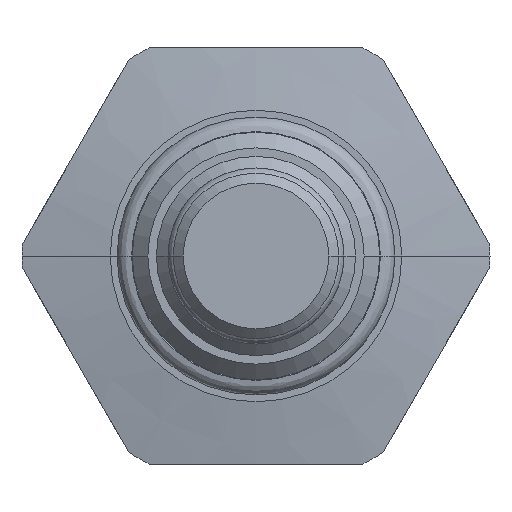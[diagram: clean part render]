
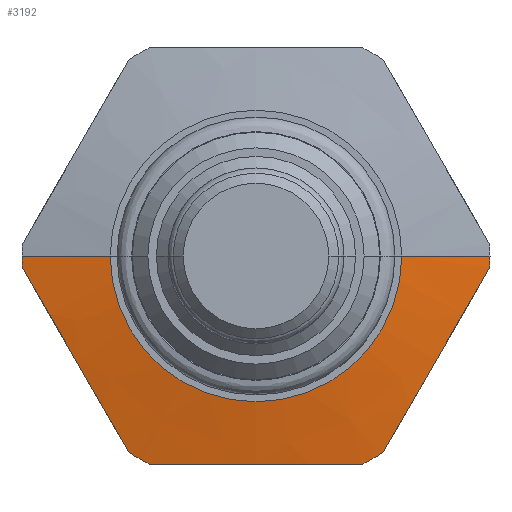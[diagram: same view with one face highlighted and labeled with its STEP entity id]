
A CAD part, front view. The second image highlights one B-rep face of the part: STEP entity #3192.
In plain terms, the highlighted conical face has half-angle 80 degrees and reference radius 14.478 mm.
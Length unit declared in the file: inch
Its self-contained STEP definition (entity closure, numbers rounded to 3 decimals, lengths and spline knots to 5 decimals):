
#456=CARTESIAN_POINT('',(0.32075,0.07663,-0.625));
#457=CARTESIAN_POINT('',(0.30718,0.07554,-0.625));
#458=CARTESIAN_POINT('',(0.28016,0.07347,-0.625));
#459=CARTESIAN_POINT('',(0.2401,0.07075,-0.625));
#460=CARTESIAN_POINT('',(0.20023,0.06842,-0.625));
#461=CARTESIAN_POINT('',(0.16038,0.06647,-0.625));
#462=CARTESIAN_POINT('',(0.12046,0.06492,-0.625));
#463=CARTESIAN_POINT('',(0.08041,0.0638,-0.625));
#464=CARTESIAN_POINT('',(0.04024,0.06312,-0.625));
#465=CARTESIAN_POINT('',(0.,0.06289,-0.625));
#466=CARTESIAN_POINT('',(-0.04024,0.06312,-0.625));
#467=CARTESIAN_POINT('',(-0.08041,0.0638,-0.625));
#468=CARTESIAN_POINT('',(-0.12046,0.06492,-0.625));
#469=CARTESIAN_POINT('',(-0.16038,0.06647,-0.625));
#470=CARTESIAN_POINT('',(-0.20023,0.06842,-0.625));
#471=CARTESIAN_POINT('',(-0.2401,0.07075,-0.625));
#472=CARTESIAN_POINT('',(-0.28016,0.07347,-0.625));
#473=CARTESIAN_POINT('',(-0.30718,0.07554,-0.625));
#474=CARTESIAN_POINT('',(-0.32075,0.07663,-0.625));
#494=CARTESIAN_POINT('',(0.,0.07663,0.));
#495=DIRECTION('',(0.,1.,0.));
#496=DIRECTION('',(-0.457,0.,-0.89));
#497=AXIS2_PLACEMENT_3D('',#494,#495,#496);
#499=CARTESIAN_POINT('',(0.,0.07663,0.));
#500=DIRECTION('',(0.,1.,0.));
#501=DIRECTION('',(-0.999,0.,-0.049));
#502=AXIS2_PLACEMENT_3D('',#499,#500,#501);
#504=CARTESIAN_POINT('',(0.,0.07663,0.));
#505=DIRECTION('',(0.,1.,0.));
#506=DIRECTION('',(1.,0.,0.));
#507=AXIS2_PLACEMENT_3D('',#504,#505,#506);
#509=CARTESIAN_POINT('',(0.,0.07663,0.));
#510=DIRECTION('',(0.,1.,0.));
#511=DIRECTION('',(0.542,0.,-0.84));
#512=AXIS2_PLACEMENT_3D('',#509,#510,#511);
#536=CARTESIAN_POINT('',(-0.38089,0.07663,
-0.59028));
#537=CARTESIAN_POINT('',(-0.38768,0.07554,
-0.57852));
#538=CARTESIAN_POINT('',(-0.40119,0.07347,
-0.55513));
#539=CARTESIAN_POINT('',(-0.42121,0.07075,
-0.52044));
#540=CARTESIAN_POINT('',(-0.44115,0.06842,
-0.4859));
#541=CARTESIAN_POINT('',(-0.46108,0.06647,
-0.45139));
#542=CARTESIAN_POINT('',(-0.48104,0.06492,
-0.41682));
#543=CARTESIAN_POINT('',(-0.50106,0.0638,
-0.38213));
#544=CARTESIAN_POINT('',(-0.52115,0.06312,
-0.34735));
#545=CARTESIAN_POINT('',(-0.54127,0.06289,
-0.3125));
#546=CARTESIAN_POINT('',(-0.56139,0.06312,
-0.27765));
#547=CARTESIAN_POINT('',(-0.58147,0.0638,
-0.24287));
#548=CARTESIAN_POINT('',(-0.60149,0.06492,
-0.20818));
#549=CARTESIAN_POINT('',(-0.62145,0.06647,
-0.17361));
#550=CARTESIAN_POINT('',(-0.64138,0.06842,
-0.1391));
#551=CARTESIAN_POINT('',(-0.66132,0.07075,
-0.10456));
#552=CARTESIAN_POINT('',(-0.68135,0.07347,
-0.06987));
#553=CARTESIAN_POINT('',(-0.69486,0.07554,
-0.04648));
#554=CARTESIAN_POINT('',(-0.70164,0.07663,
-0.03472));
#648=DIRECTION('',(-0.985,-0.174,0.));
#649=VECTOR('',#648,0.26909);
#650=CARTESIAN_POINT('',(0.7025,0.07663,0.));
#651=LINE('',#650,#649);
#652=DIRECTION('',(0.985,-0.174,0.));
#653=VECTOR('',#652,0.26909);
#654=CARTESIAN_POINT('',(-0.7025,0.07663,0.));
#655=LINE('',#654,#653);
#782=CARTESIAN_POINT('',(0.70164,0.07663,
-0.03472));
#783=CARTESIAN_POINT('',(0.69486,0.07554,
-0.04648));
#784=CARTESIAN_POINT('',(0.68135,0.07347,
-0.06987));
#785=CARTESIAN_POINT('',(0.66132,0.07075,
-0.10456));
#786=CARTESIAN_POINT('',(0.64138,0.06842,
-0.1391));
#787=CARTESIAN_POINT('',(0.62145,0.06647,
-0.17361));
#788=CARTESIAN_POINT('',(0.60149,0.06492,
-0.20818));
#789=CARTESIAN_POINT('',(0.58147,0.0638,
-0.24287));
#790=CARTESIAN_POINT('',(0.56139,0.06312,
-0.27765));
#791=CARTESIAN_POINT('',(0.54127,0.06289,
-0.3125));
#792=CARTESIAN_POINT('',(0.52115,0.06312,
-0.34735));
#793=CARTESIAN_POINT('',(0.50106,0.0638,
-0.38213));
#794=CARTESIAN_POINT('',(0.48104,0.06492,
-0.41682));
#795=CARTESIAN_POINT('',(0.46108,0.06647,
-0.45139));
#796=CARTESIAN_POINT('',(0.44115,0.06842,
-0.4859));
#797=CARTESIAN_POINT('',(0.42121,0.07075,
-0.52044));
#798=CARTESIAN_POINT('',(0.40119,0.07347,
-0.55513));
#799=CARTESIAN_POINT('',(0.38768,0.07554,
-0.57852));
#800=CARTESIAN_POINT('',(0.38089,0.07663,
-0.59028));
#825=CARTESIAN_POINT('',(0.,0.0299,0.));
#826=DIRECTION('',(0.,1.,0.));
#827=DIRECTION('',(1.,0.,0.));
#828=AXIS2_PLACEMENT_3D('',#825,#826,#827);
#2099=CARTESIAN_POINT('',(0.4375,0.0299,0.));
#2101=VERTEX_POINT('',#2099);
#2103=CARTESIAN_POINT('',(-0.4375,0.0299,0.));
#2105=VERTEX_POINT('',#2103);
#2155=CARTESIAN_POINT('',(-0.32075,0.07663,-0.625));
#2156=CARTESIAN_POINT('',(-0.38089,0.07663,
-0.59028));
#2157=VERTEX_POINT('',#2155);
#2158=VERTEX_POINT('',#2156);
#2159=CARTESIAN_POINT('',(-0.70164,0.07663,
-0.03472));
#2160=CARTESIAN_POINT('',(-0.7025,0.07663,0.));
#2161=VERTEX_POINT('',#2159);
#2162=VERTEX_POINT('',#2160);
#2163=CARTESIAN_POINT('',(0.7025,0.07663,0.));
#2164=CARTESIAN_POINT('',(0.70164,0.07663,
-0.03472));
#2165=VERTEX_POINT('',#2163);
#2166=VERTEX_POINT('',#2164);
#2167=CARTESIAN_POINT('',(0.38089,0.07663,
-0.59028));
#2168=CARTESIAN_POINT('',(0.32075,0.07663,-0.625));
#2169=VERTEX_POINT('',#2167);
#2170=VERTEX_POINT('',#2168);
#3167=CARTESIAN_POINT('',(0.,0.05327,0.));
#3168=DIRECTION('',(0.,1.,0.));
#3169=DIRECTION('',(1.,0.,0.));
#3170=AXIS2_PLACEMENT_3D('',#3167,#3168,#3169);
#3171=CONICAL_SURFACE('',#3170,0.57,80.);
#3172=ORIENTED_EDGE('',*,*,#3157,.T.);
#3174=ORIENTED_EDGE('',*,*,#3173,.T.);
#3176=ORIENTED_EDGE('',*,*,#3175,.T.);
#3178=ORIENTED_EDGE('',*,*,#3177,.T.);
#3180=ORIENTED_EDGE('',*,*,#3179,.F.);
#3182=ORIENTED_EDGE('',*,*,#3181,.F.);
#3184=ORIENTED_EDGE('',*,*,#3183,.T.);
#3186=ORIENTED_EDGE('',*,*,#3185,.T.);
#3188=ORIENTED_EDGE('',*,*,#3187,.T.);
#3189=ORIENTED_EDGE('',*,*,#3140,.T.);
#3190=EDGE_LOOP('',(#3172,#3174,#3176,#3178,#3180,#3182,#3184,#3186,#3188,
#3189));
#3191=FACE_OUTER_BOUND('',#3190,.F.);
#3192=ADVANCED_FACE('',(#3191),#3171,.T.);
#475=B_SPLINE_CURVE_WITH_KNOTS('',3,(#456,#457,#458,#459,#460,#461,#462,#463,
#464,#465,#466,#467,#468,#469,#470,#471,#472,#473,#474),.UNSPECIFIED.,.F.,.F.,
(4,1,1,1,1,1,1,1,1,1,1,1,1,1,1,1,4),(0.,0.0625,0.125,0.1875,0.25,
0.3125,0.375,0.4375,0.5,0.5625,0.625,0.6875,0.75,0.8125,
0.875,0.9375,1.),.UNSPECIFIED.);
#498=CIRCLE('',#497,0.7025);
#503=CIRCLE('',#502,0.7025);
#508=CIRCLE('',#507,0.7025);
#513=CIRCLE('',#512,0.7025);
#555=B_SPLINE_CURVE_WITH_KNOTS('',3,(#536,#537,#538,#539,#540,#541,#542,#543,
#544,#545,#546,#547,#548,#549,#550,#551,#552,#553,#554),.UNSPECIFIED.,.F.,.F.,
(4,1,1,1,1,1,1,1,1,1,1,1,1,1,1,1,4),(0.,0.0625,0.125,0.1875,0.25,
0.3125,0.375,0.4375,0.5,0.5625,0.625,0.6875,0.75,0.8125,
0.875,0.9375,1.),.UNSPECIFIED.);
#801=B_SPLINE_CURVE_WITH_KNOTS('',3,(#782,#783,#784,#785,#786,#787,#788,#789,
#790,#791,#792,#793,#794,#795,#796,#797,#798,#799,#800),.UNSPECIFIED.,.F.,.F.,
(4,1,1,1,1,1,1,1,1,1,1,1,1,1,1,1,4),(0.,0.0625,0.125,0.1875,0.25,
0.3125,0.375,0.4375,0.5,0.5625,0.625,0.6875,0.75,0.8125,
0.875,0.9375,1.),.UNSPECIFIED.);
#829=CIRCLE('',#828,0.4375);
#3140=EDGE_CURVE('',#2170,#2157,#475,.T.);
#3157=EDGE_CURVE('',#2157,#2158,#498,.T.);
#3173=EDGE_CURVE('',#2158,#2161,#555,.T.);
#3175=EDGE_CURVE('',#2161,#2162,#503,.T.);
#3177=EDGE_CURVE('',#2162,#2105,#655,.T.);
#3179=EDGE_CURVE('',#2101,#2105,#829,.T.);
#3181=EDGE_CURVE('',#2165,#2101,#651,.T.);
#3183=EDGE_CURVE('',#2165,#2166,#508,.T.);
#3185=EDGE_CURVE('',#2166,#2169,#801,.T.);
#3187=EDGE_CURVE('',#2169,#2170,#513,.T.);
